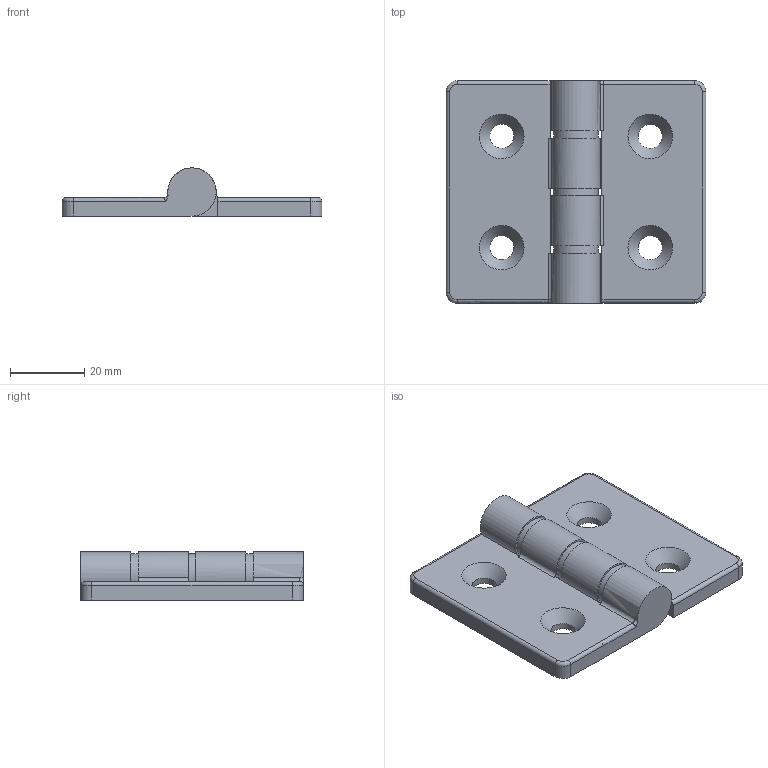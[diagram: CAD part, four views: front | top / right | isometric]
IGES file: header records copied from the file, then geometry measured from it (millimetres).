
Global section: file name: DR_HS6070; native system: Autodesk Inventor 2015; preprocessor: unknown; author: CH.J; date: 20170821.094825; units: millimetre
Bounding box: 70 x 60 x 12.99 mm (x, y, z)
Volume: 24063.9 mm3; surface area: 12303.5 mm2
Topology: 5 solids, 5 shells, 61 faces, 147 edges, 96 vertices
Faces by surface type: bspline 61
